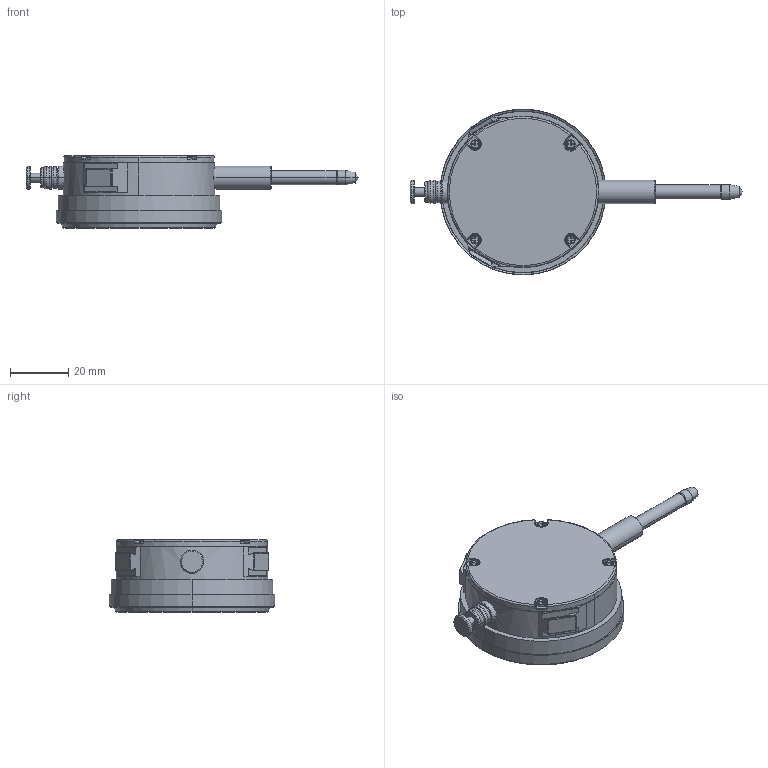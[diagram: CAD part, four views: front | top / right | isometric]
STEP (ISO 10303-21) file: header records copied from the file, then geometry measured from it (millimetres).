
FILE_DESCRIPTION(('Creo Elements/Direct Modeling STEP Export'),'2;1');
FILE_NAME('2320SB-10.stp','2020-03-23T10:51:19',(''),(''),'Creo Elements/Direct Modeling STEP processor for AP214 (Solid Model)','Creo Elements/Direct Modeling 18.1I 13-Aug-2016 (C) Parametric Technology GmbH','');
FILE_SCHEMA(('AUTOMOTIVE_DESIGN { 1 0 10303 214 1 1 1 1 }'));
Length unit declared in the file: millimetre
Products named in the file (2): 2320SB-10
Assembly tree (1 placements, depth 2):
  2320SB-10
    2320SB-10
Bounding box: 114 x 56.99 x 25.03 mm (x, y, z)
Volume: 58679.8 mm3; surface area: 10865.7 mm2
Topology: 1 solids, 1 shells, 301 faces, 720 edges, 443 vertices
Faces by surface type: plane 120, cylinder 79, cone 40, bspline 32, torus 28, sphere 2
Entity records: 13565 total; most frequent: CARTESIAN_POINT 7050, ORIENTED_EDGE 1436, DIRECTION 1228, EDGE_CURVE 718, VERTEX_POINT 443, AXIS2_PLACEMENT_3D 433, VECTOR 362, LINE 362
